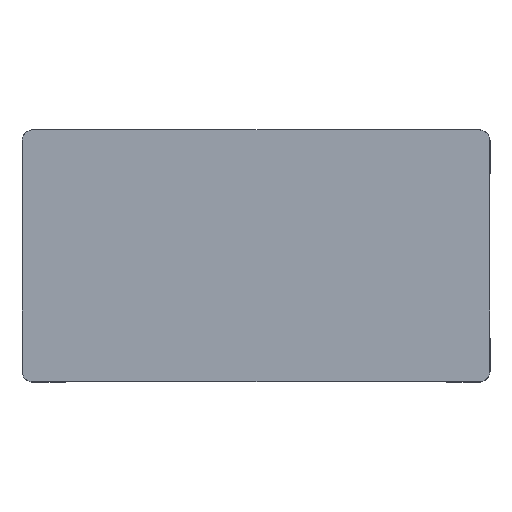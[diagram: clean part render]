
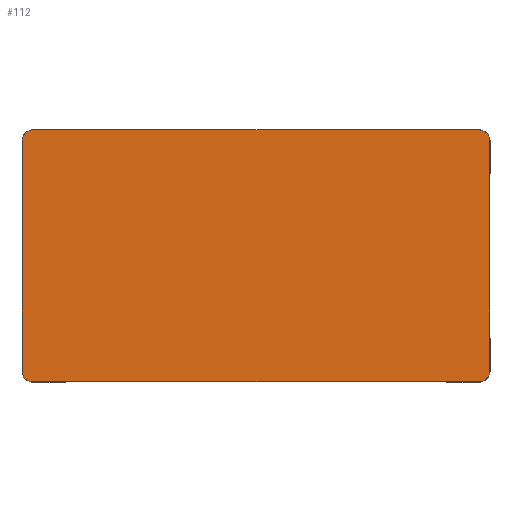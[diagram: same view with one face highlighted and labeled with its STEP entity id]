
A CAD part, top view. The second image highlights one B-rep face of the part: STEP entity #112.
In plain terms, the highlighted planar face has unit normal (0, 0, 1).
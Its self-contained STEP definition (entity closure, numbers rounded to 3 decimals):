
#112=ADVANCED_FACE($,(#342),#2814,.T.);
#342=FACE_OUTER_BOUND($,#572,.T.);
#572=EDGE_LOOP($,(#836,#837,#838,#839,#840,#841,#842,#843));
#836=ORIENTED_EDGE($,*,*,#1887,.F.);
#837=ORIENTED_EDGE($,*,*,#1878,.F.);
#838=ORIENTED_EDGE($,*,*,#1886,.F.);
#839=ORIENTED_EDGE($,*,*,#1877,.F.);
#840=ORIENTED_EDGE($,*,*,#1885,.F.);
#841=ORIENTED_EDGE($,*,*,#1876,.F.);
#842=ORIENTED_EDGE($,*,*,#1884,.F.);
#843=ORIENTED_EDGE($,*,*,#1879,.F.);
#1876=EDGE_CURVE($,#2405,#2404,#3078,.T.);
#1877=EDGE_CURVE($,#2407,#2406,#3079,.T.);
#1878=EDGE_CURVE($,#2409,#2408,#3080,.T.);
#1879=EDGE_CURVE($,#2411,#2410,#3081,.T.);
#1884=EDGE_CURVE($,#2410,#2405,#2918,.T.);
#1885=EDGE_CURVE($,#2404,#2407,#2919,.T.);
#1886=EDGE_CURVE($,#2406,#2409,#2920,.T.);
#1887=EDGE_CURVE($,#2408,#2411,#2921,.T.);
#2404=VERTEX_POINT($,#3870);
#2405=VERTEX_POINT($,#3871);
#2406=VERTEX_POINT($,#3872);
#2407=VERTEX_POINT($,#3873);
#2408=VERTEX_POINT($,#3874);
#2409=VERTEX_POINT($,#3875);
#2410=VERTEX_POINT($,#3876);
#2411=VERTEX_POINT($,#3877);
#2814=PLANE($,#3528);
#2918=(
BOUNDED_CURVE()
B_SPLINE_CURVE(2,(#3764,#3765,#3766),.UNSPECIFIED.,.F.,.F.)
B_SPLINE_CURVE_WITH_KNOTS((3,3),(-1.,0.),.UNSPECIFIED.)
CURVE()
GEOMETRIC_REPRESENTATION_ITEM()
RATIONAL_B_SPLINE_CURVE((1.,0.707,1.))
REPRESENTATION_ITEM($)
);
#2919=(
BOUNDED_CURVE()
B_SPLINE_CURVE(2,(#3767,#3768,#3769),.UNSPECIFIED.,.F.,.F.)
B_SPLINE_CURVE_WITH_KNOTS((3,3),(0.,1.),.UNSPECIFIED.)
CURVE()
GEOMETRIC_REPRESENTATION_ITEM()
RATIONAL_B_SPLINE_CURVE((1.,0.707,1.))
REPRESENTATION_ITEM($)
);
#2920=(
BOUNDED_CURVE()
B_SPLINE_CURVE(2,(#3770,#3771,#3772),.UNSPECIFIED.,.F.,.F.)
B_SPLINE_CURVE_WITH_KNOTS((3,3),(0.,1.),.UNSPECIFIED.)
CURVE()
GEOMETRIC_REPRESENTATION_ITEM()
RATIONAL_B_SPLINE_CURVE((1.,0.707,1.))
REPRESENTATION_ITEM($)
);
#2921=(
BOUNDED_CURVE()
B_SPLINE_CURVE(2,(#3773,#3774,#3775),.UNSPECIFIED.,.F.,.F.)
B_SPLINE_CURVE_WITH_KNOTS((3,3),(0.,1.),.UNSPECIFIED.)
CURVE()
GEOMETRIC_REPRESENTATION_ITEM()
RATIONAL_B_SPLINE_CURVE((1.,0.707,1.))
REPRESENTATION_ITEM($)
);
#3078=B_SPLINE_CURVE_WITH_KNOTS($,1,(#3744,#3745),.UNSPECIFIED.,.F.,.F.,
(2,2),(30.,670.),.UNSPECIFIED.);
#3079=B_SPLINE_CURVE_WITH_KNOTS($,1,(#3746,#3747),.UNSPECIFIED.,.F.,.F.,
(2,2),(30.,1270.),.UNSPECIFIED.);
#3080=B_SPLINE_CURVE_WITH_KNOTS($,1,(#3748,#3749),.UNSPECIFIED.,.F.,.F.,
(2,2),(30.,670.),.UNSPECIFIED.);
#3081=B_SPLINE_CURVE_WITH_KNOTS($,1,(#3750,#3751),.UNSPECIFIED.,.F.,.F.,
(2,2),(30.,1270.),.UNSPECIFIED.);
#3528=AXIS2_PLACEMENT_3D($,#3810,#3633,$);
#3633=DIRECTION($,(0.,0.,1.));
#3744=CARTESIAN_POINT($,(0.,30.,304.));
#3745=CARTESIAN_POINT($,(0.,670.,304.));
#3746=CARTESIAN_POINT($,(30.,700.,304.));
#3747=CARTESIAN_POINT($,(1270.,700.,304.));
#3748=CARTESIAN_POINT($,(1300.,670.,304.));
#3749=CARTESIAN_POINT($,(1300.,30.,304.));
#3750=CARTESIAN_POINT($,(1270.,0.,304.));
#3751=CARTESIAN_POINT($,(30.,0.,304.));
#3764=CARTESIAN_POINT($,(30.,0.,304.));
#3765=CARTESIAN_POINT($,(0.,0.,304.));
#3766=CARTESIAN_POINT($,(0.,30.,304.));
#3767=CARTESIAN_POINT($,(0.,670.,304.));
#3768=CARTESIAN_POINT($,(0.,700.,304.));
#3769=CARTESIAN_POINT($,(30.,700.,304.));
#3770=CARTESIAN_POINT($,(1270.,700.,304.));
#3771=CARTESIAN_POINT($,(1300.,700.,304.));
#3772=CARTESIAN_POINT($,(1300.,670.,304.));
#3773=CARTESIAN_POINT($,(1300.,30.,304.));
#3774=CARTESIAN_POINT($,(1300.,0.,304.));
#3775=CARTESIAN_POINT($,(1270.,0.,304.));
#3810=CARTESIAN_POINT($,(0.,0.,304.));
#3870=CARTESIAN_POINT($,(0.,670.,304.));
#3871=CARTESIAN_POINT($,(0.,30.,304.));
#3872=CARTESIAN_POINT($,(1270.,700.,304.));
#3873=CARTESIAN_POINT($,(30.,700.,304.));
#3874=CARTESIAN_POINT($,(1300.,30.,304.));
#3875=CARTESIAN_POINT($,(1300.,670.,304.));
#3876=CARTESIAN_POINT($,(30.,0.,304.));
#3877=CARTESIAN_POINT($,(1270.,0.,304.));
